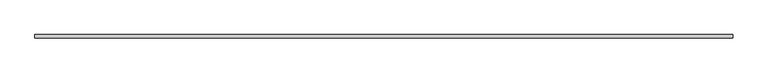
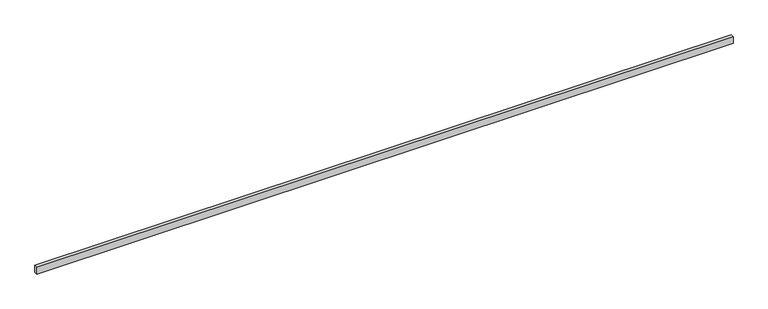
"""IFC4 building model written with IfcOpenShell, lengths in millimetres: proxy geometry, Кабель-каналы_магистральные_цвет-белый : Кабель-канал магистральный 20х10 белый."""

from ifc_helpers import new_model, si_unit, origin, origin_with_axes, place, context, project, spatial, polyline, outline, extrude, source, transform, mapped, element, save


def generic_models_048f9fef(model_context):
    return source(origin(), model_context, "Body", "SweptSolid", [
        extrude(outline(polyline([(2000.0, -10.0), (0.0, -10.0), (0.0, 0.0), (2000.0, 0.0), (2000.0, -10.0)])), origin_with_axes(), (0.0, 0.0, 1.0), 20.0),
    ])


if __name__ == "__main__":
    model = new_model("IFC4")
    model_context = context("Model", 3, world=origin())
    ifc_project = project(units=[si_unit("LENGTHUNIT", "METRE", prefix="MILLI")], contexts=[model_context])
    site = spatial("IfcSite", under=ifc_project)
    building = spatial("IfcBuilding", under=site)
    placement = place(None, origin())
    generic_models_shape = generic_models_048f9fef(model_context)
    element("IfcBuildingElementProxy", 1, Name="Кабель-каналы_магистральные_цвет-белый : Кабель-канал магистральный 20х10 белый", ObjectType="Кабель-каналы_магистральные_цвет-белый : Кабель-канал магистральный 20х10 белый", at=placement, inside=building, context=model_context, shape_type="MappedRepresentation", body=[
        mapped(generic_models_shape, transform((0.0, 0.0, 0.0), x_axis=(1.0, 0.0, 0.0), y_axis=(0.0, 1.0, 0.0), z_axis=(0.0, 0.0, 1.0))),
    ])
    save(model, "model.ifc")
